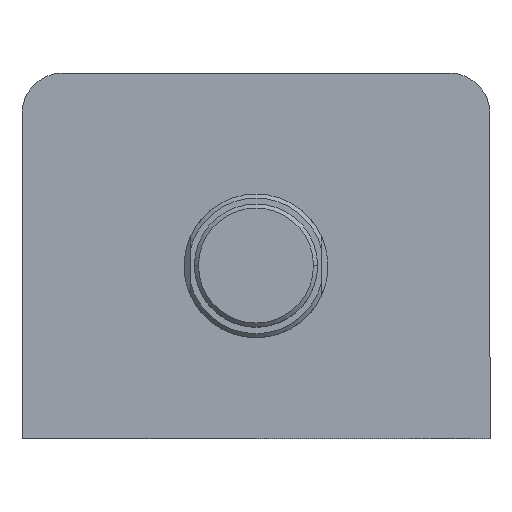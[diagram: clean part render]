
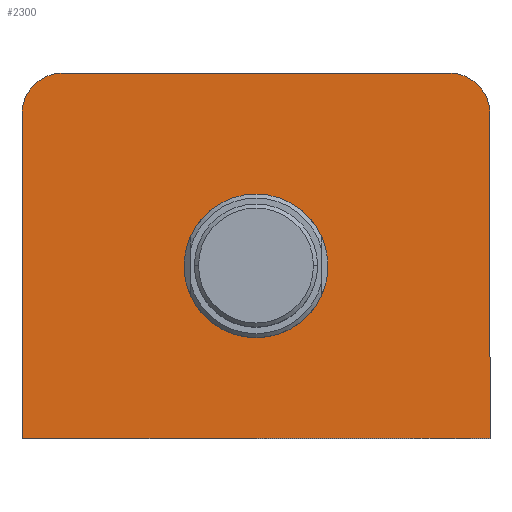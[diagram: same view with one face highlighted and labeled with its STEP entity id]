
A CAD part, top view. The second image highlights one B-rep face of the part: STEP entity #2300.
In plain terms, the highlighted planar face has unit normal (0, 0, 1).
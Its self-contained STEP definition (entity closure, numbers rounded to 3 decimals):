
#213 = EDGE_CURVE ( 'NONE', #518, #513, #2755, .T. ) ;
#353 = EDGE_CURVE ( 'NONE', #495, #518, #689, .T. ) ;
#367 = EDGE_CURVE ( 'NONE', #513, #459, #706, .T. ) ;
#379 = EDGE_CURVE ( 'NONE', #517, #501, #722, .T. ) ;
#432 = EDGE_CURVE ( 'NONE', #459, #517, #799, .T. ) ;
#446 = EDGE_CURVE ( 'NONE', #2346, #2331, #820, .T. ) ;
#448 = EDGE_CURVE ( 'NONE', #2331, #2346, #823, .T. ) ;
#459 = VERTEX_POINT ( 'NONE', #1128 ) ;
#495 = VERTEX_POINT ( 'NONE', #1154 ) ;
#501 = VERTEX_POINT ( 'NONE', #1160 ) ;
#513 = VERTEX_POINT ( 'NONE', #1317 ) ;
#517 = VERTEX_POINT ( 'NONE', #1321 ) ;
#518 = VERTEX_POINT ( 'NONE', #1322 ) ;
#565 = CARTESIAN_POINT ( 'NONE',  ( -57., 44.5, 87. ) ) ;
#570 = DIRECTION ( 'NONE',  ( -1., 0., 0. ) ) ;
#584 = DIRECTION ( 'NONE',  ( 1., 0., 0. ) ) ;
#689 = CIRCLE ( 'NONE', #2828, 10. ) ;
#706 = CIRCLE ( 'NONE', #2805, 10. ) ;
#722 = LINE ( 'NONE', #2429, #724 ) ;
#724 = VECTOR ( 'NONE', #584, 1000. ) ;
#799 = LINE ( 'NONE', #1084, #802 ) ;
#802 = VECTOR ( 'NONE', #1085, 1000. ) ;
#820 = CIRCLE ( 'NONE', #2861, 17.5 ) ;
#823 = CIRCLE ( 'NONE', #2859, 17.5 ) ;
#1084 = CARTESIAN_POINT ( 'NONE',  ( -57., 44.5, 87. ) ) ;
#1085 = DIRECTION ( 'NONE',  ( 0., -1., 0. ) ) ;
#1122 = CARTESIAN_POINT ( 'NONE',  ( 0., -2.5, 87. ) ) ;
#1123 = DIRECTION ( 'NONE',  ( 0., 0., 1. ) ) ;
#1124 = DIRECTION ( 'NONE',  ( 1., 0., 0. ) ) ;
#1125 = CARTESIAN_POINT ( 'NONE',  ( 0., -2.5, 87. ) ) ;
#1126 = DIRECTION ( 'NONE',  ( 0., 0., 1. ) ) ;
#1127 = DIRECTION ( 'NONE',  ( 1., 0., 0. ) ) ;
#1128 = CARTESIAN_POINT ( 'NONE',  ( -57., 34.5, 87. ) ) ;
#1154 = CARTESIAN_POINT ( 'NONE',  ( 57., 34.5, 87. ) ) ;
#1160 = CARTESIAN_POINT ( 'NONE',  ( 57., -44.5, 87. ) ) ;
#1247 = FACE_BOUND ( 'NONE', #1577, .T. ) ;
#1252 = FACE_OUTER_BOUND ( 'NONE', #1596, .T. ) ;
#1317 = CARTESIAN_POINT ( 'NONE',  ( -47., 44.5, 87. ) ) ;
#1321 = CARTESIAN_POINT ( 'NONE',  ( -57., -44.5, 87. ) ) ;
#1322 = CARTESIAN_POINT ( 'NONE',  ( 47., 44.5, 87. ) ) ;
#1505 = LINE ( 'NONE', #1652, #1508 ) ;
#1508 = VECTOR ( 'NONE', #1653, 1000. ) ;
#1577 = EDGE_LOOP ( 'NONE', ( #2676, #2677 ) ) ;
#1596 = EDGE_LOOP ( 'NONE', ( #2678, #2679, #2680, #2681, #2682, #2683 ) ) ;
#1652 = CARTESIAN_POINT ( 'NONE',  ( 57., 44.5, 87. ) ) ;
#1653 = DIRECTION ( 'NONE',  ( 0., 1., 0. ) ) ;
#2085 = PLANE ( 'NONE',  #2936 ) ;
#2087 = CARTESIAN_POINT ( 'NONE',  ( 0., 0., 87. ) ) ;
#2092 = DIRECTION ( 'NONE',  ( 0., 0., 1. ) ) ;
#2093 = DIRECTION ( 'NONE',  ( 1., 0., 0. ) ) ;
#2300 = ADVANCED_FACE ( 'NONE', ( #1247, #1252 ), #2085, .T. ) ;
#2331 = VERTEX_POINT ( 'NONE', #3320 ) ;
#2346 = VERTEX_POINT ( 'NONE', #3333 ) ;
#2408 = CARTESIAN_POINT ( 'NONE',  ( -47., 34.5, 87. ) ) ;
#2409 = DIRECTION ( 'NONE',  ( 0., 0., 1. ) ) ;
#2410 = DIRECTION ( 'NONE',  ( 1., 0., 0. ) ) ;
#2429 = CARTESIAN_POINT ( 'NONE',  ( -57., -44.5, 87. ) ) ;
#2474 = CARTESIAN_POINT ( 'NONE',  ( 47., 34.5, 87. ) ) ;
#2475 = DIRECTION ( 'NONE',  ( 0., 0., 1. ) ) ;
#2476 = DIRECTION ( 'NONE',  ( 1., 0., 0. ) ) ;
#2676 = ORIENTED_EDGE ( 'NONE', *, *, #448, .F. ) ;
#2677 = ORIENTED_EDGE ( 'NONE', *, *, #446, .F. ) ;
#2678 = ORIENTED_EDGE ( 'NONE', *, *, #213, .T. ) ;
#2679 = ORIENTED_EDGE ( 'NONE', *, *, #367, .T. ) ;
#2680 = ORIENTED_EDGE ( 'NONE', *, *, #432, .T. ) ;
#2681 = ORIENTED_EDGE ( 'NONE', *, *, #379, .T. ) ;
#2682 = ORIENTED_EDGE ( 'NONE', *, *, #2850, .T. ) ;
#2683 = ORIENTED_EDGE ( 'NONE', *, *, #353, .T. ) ;
#2755 = LINE ( 'NONE', #565, #2756 ) ;
#2756 = VECTOR ( 'NONE', #570, 1000. ) ;
#2805 = AXIS2_PLACEMENT_3D ( 'NONE', #2408, #2409, #2410 ) ;
#2828 = AXIS2_PLACEMENT_3D ( 'NONE', #2474, #2475, #2476 ) ;
#2850 = EDGE_CURVE ( 'NONE', #501, #495, #1505, .T. ) ;
#2859 = AXIS2_PLACEMENT_3D ( 'NONE', #1125, #1126, #1127 ) ;
#2861 = AXIS2_PLACEMENT_3D ( 'NONE', #1122, #1123, #1124 ) ;
#2936 = AXIS2_PLACEMENT_3D ( 'NONE', #2087, #2092, #2093 ) ;
#3320 = CARTESIAN_POINT ( 'NONE',  ( 17.5, -2.5, 87. ) ) ;
#3333 = CARTESIAN_POINT ( 'NONE',  ( -17.5, -2.5, 87. ) ) ;
